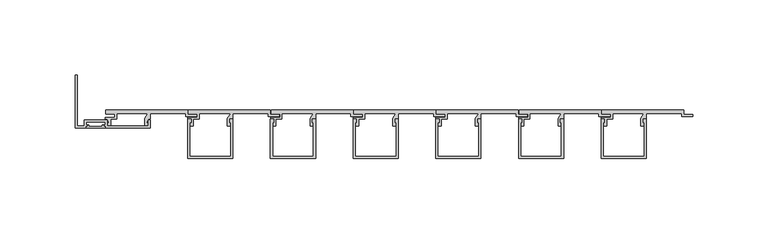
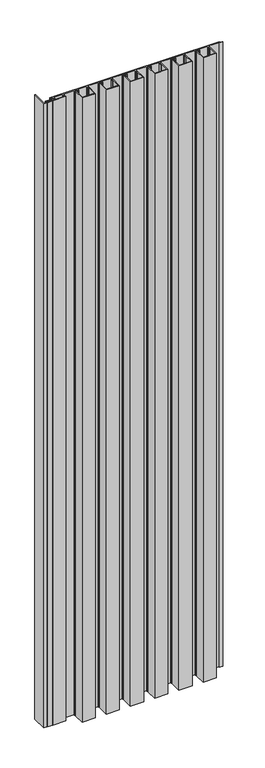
"""IFC4 building model written with IfcOpenShell, lengths in millimetres: proxy geometry, A_GEN_LINE_Small Base_Standard Cap_LTrim : A_GEN_LINE_Small Base_Standard Cap_LTrim."""

from ifc_helpers import new_model, si_unit, origin, origin_with_axes, place, context, project, spatial, polyline, outline, extrude, source, transform, mapped, element, save


def generic_models_d0506a42(model_context):
    return source(origin(), model_context, "Body", "SweptSolid", [
        extrude(outline(polyline([(-13.0106499, -11.8818695), (-13.0106499, -10.9050009), (-12.1106499, -10.9050009), (-12.1106499, -10.0050009), (-11.2354943, -10.0050009), (-11.2354943, -10.9050009), (-2.1892046, -10.9050009), (-2.1892046, -10.0050009), (-1.314049, -10.0050009), (-1.314049, -10.9050009), (-0.414049, -10.9050009), (-0.414049, -11.8818695), (-13.0106499, -11.8818695)])), origin_with_axes(), (0.0, 0.0, 1.0), 1500.0),
        extrude(outline(polyline([(-0.414049, -10.9050009), (-1.314049, -10.9050009), (-1.314049, -10.0050009), (-0.414049, -10.0050009), (-0.414049, -7.8818695), (-13.0306499, -7.8818695), (-13.0306499, -10.0050009), (-12.1306499, -10.0050009), (-12.1306499, -10.9050009), (-13.0306499, -10.9050009), (-13.0306499, -11.8818695), (-20.3575953, -11.8818695), (-20.3575953, 23.3746551), (-18.9575953, 23.3746551), (-18.9575953, -10.4818695), (-14.4306499, -10.4818695), (-14.4306499, -6.4818695), (0.985951, -6.4818695), (0.985951, -10.4818695), (28.1839928, -10.4818695), (28.1839928, -6.4818695), (29.5839928, -6.4818695), (29.5839928, -11.8818695), (-0.414049, -11.8818695), (-0.414049, -10.9050009)])), origin_with_axes(), (0.0, 0.0, 1.0), 1500.0),
        extrude(outline(polyline([(329.5935072, -32.2007192), (329.5935072, -6.1), (331.7425142, -6.1), (331.7425142, -8.3419727), (330.9935072, -8.5826662), (330.9935072, -30.8007192), (358.1935072, -30.8007192), (358.1935072, -8.5826662), (357.4445002, -8.3419727), (357.4445002, -6.1), (359.5935072, -6.1), (359.5935072, -32.2007192), (329.5935072, -32.2007192)])), origin_with_axes(), (0.0, 0.0, 1.0), 1500.0),
        extrude(outline(polyline([(274.5919, -32.2007192), (274.5919, -6.1), (276.740907, -6.1), (276.740907, -8.3419727), (275.9919, -8.5826662), (275.9919, -30.8007192), (303.1919, -30.8007192), (303.1919, -8.5826662), (302.4428931, -8.3419727), (302.4428931, -6.1), (304.5919, -6.1), (304.5919, -32.2007192), (274.5919, -32.2007192)])), origin_with_axes(), (0.0, 0.0, 1.0), 1500.0),
        extrude(outline(polyline([(219.5902928, -32.2007192), (219.5902928, -6.1), (221.7392998, -6.1), (221.7392998, -8.3419727), (220.9902928, -8.5826662), (220.9902928, -30.8007192), (248.1902928, -30.8007192), (248.1902928, -8.5826662), (247.4412859, -8.3419727), (247.4412859, -6.1), (249.5902928, -6.1), (249.5902928, -32.2007192), (219.5902928, -32.2007192)])), origin_with_axes(), (0.0, 0.0, 1.0), 1500.0),
        extrude(outline(polyline([(164.5886856, -32.2007192), (164.5886856, -6.1), (166.7376926, -6.1), (166.7376926, -8.3419727), (165.9886856, -8.5826662), (165.9886856, -30.8007192), (193.1886856, -30.8007192), (193.1886856, -8.5826662), (192.4396787, -8.3419727), (192.4396787, -6.1), (194.5886856, -6.1), (194.5886856, -32.2007192), (164.5886856, -32.2007192)])), origin_with_axes(), (0.0, 0.0, 1.0), 1500.0),
        extrude(outline(polyline([(109.5870785, -32.2007192), (109.5870785, -6.1), (111.7360854, -6.1), (111.7360854, -8.3419727), (110.9870785, -8.5826662), (110.9870785, -30.8007192), (138.1870785, -30.8007192), (138.1870785, -8.5826662), (137.4380715, -8.3419727), (137.4380715, -6.1), (139.5870785, -6.1), (139.5870785, -32.2007192), (109.5870785, -32.2007192)])), origin_with_axes(), (0.0, 0.0, 1.0), 1500.0),
        extrude(outline(polyline([(54.5854713, -32.2007192), (54.5854713, -6.1), (56.7344782, -6.1), (56.7344782, -8.3419727), (55.9854713, -8.5826662), (55.9854713, -30.8007192), (83.1854713, -30.8007192), (83.1854713, -8.5826662), (82.4364643, -8.3419727), (82.4364643, -6.1), (84.5854713, -6.1), (84.5854713, -32.2007192), (54.5854713, -32.2007192)])), origin_with_axes(), (0.0, 0.0, 1.0), 1500.0),
        extrude(outline(polyline([(330.0, 0.0), (384.5728944, 0.0), (384.5728944, -2.85), (390.5728944, -2.85), (390.5728944, -4.2), (383.0545393, -4.2), (383.0545393, -2.4), (359.5849719, -2.4), (359.5849719, -6.1021884), (358.4699984, -6.1021884), (356.8814326, -8.4994005), (358.1433665, -8.4994005), (358.1433665, -10.4818695), (355.9408405, -10.4818695), (355.9408405, -5.6343123), (358.0399616, -2.4), (337.2195527, -2.4), (337.2195527, -6.1), (333.2291033, -6.1), (333.2291033, -10.4818695), (331.0265772, -10.4818695), (331.0265772, -8.4994005), (332.2885111, -8.4994005), (330.6999453, -6.1021884), (329.6137598, -6.1021884), (329.6137598, -4.9), (336.0195527, -4.9), (336.0195527, -2.7), (330.0, -2.7), (330.0, 0.0)])), origin_with_axes(), (0.0, 0.0, 1.0), 1500.0),
        extrude(outline(polyline([(275.0, 0.0), (329.5728944, 0.0), (329.5728944, -2.85), (335.5728944, -2.85), (335.5728944, -4.2), (328.0545393, -4.2), (328.0545393, -2.4), (304.5849719, -2.4), (304.5849719, -6.1021884), (303.4699984, -6.1021884), (301.8814326, -8.4994005), (303.1433665, -8.4994005), (303.1433665, -10.4818695), (300.9408405, -10.4818695), (300.9408405, -5.6343123), (303.0399616, -2.4), (282.2195527, -2.4), (282.2195527, -6.1), (278.2291033, -6.1), (278.2291033, -10.4818695), (276.0265772, -10.4818695), (276.0265772, -8.4994005), (277.2885111, -8.4994005), (275.6999453, -6.1021884), (274.6137598, -6.1021884), (274.6137598, -4.9), (281.0195527, -4.9), (281.0195527, -2.7), (275.0, -2.7), (275.0, 0.0)])), origin_with_axes(), (0.0, 0.0, 1.0), 1500.0),
        extrude(outline(polyline([(220.0, 0.0), (274.5728944, 0.0), (274.5728944, -2.85), (280.5728944, -2.85), (280.5728944, -4.2), (273.0545393, -4.2), (273.0545393, -2.4), (249.5849719, -2.4), (249.5849719, -6.1021884), (248.4699984, -6.1021884), (246.8814326, -8.4994005), (248.1433665, -8.4994005), (248.1433665, -10.4818695), (245.9408405, -10.4818695), (245.9408405, -5.6343123), (248.0399616, -2.4), (227.2195527, -2.4), (227.2195527, -6.1), (223.2291033, -6.1), (223.2291033, -10.4818695), (221.0265772, -10.4818695), (221.0265772, -8.4994005), (222.2885111, -8.4994005), (220.6999453, -6.1021884), (219.6137598, -6.1021884), (219.6137598, -4.9), (226.0195527, -4.9), (226.0195527, -2.7), (220.0, -2.7), (220.0, 0.0)])), origin_with_axes(), (0.0, 0.0, 1.0), 1500.0),
        extrude(outline(polyline([(165.0, 0.0), (219.5728944, 0.0), (219.5728944, -2.85), (225.5728944, -2.85), (225.5728944, -4.2), (218.0545393, -4.2), (218.0545393, -2.4), (194.5849719, -2.4), (194.5849719, -6.1021884), (193.4699984, -6.1021884), (191.8814326, -8.4994005), (193.1433665, -8.4994005), (193.1433665, -10.4818695), (190.9408405, -10.4818695), (190.9408405, -5.6343123), (193.0399616, -2.4), (172.2195527, -2.4), (172.2195527, -6.1), (168.2291033, -6.1), (168.2291033, -10.4818695), (166.0265772, -10.4818695), (166.0265772, -8.4994005), (167.2885111, -8.4994005), (165.6999453, -6.1021884), (164.6137598, -6.1021884), (164.6137598, -4.9), (171.0195527, -4.9), (171.0195527, -2.7), (165.0, -2.7), (165.0, 0.0)])), origin_with_axes(), (0.0, 0.0, 1.0), 1500.0),
        extrude(outline(polyline([(110.0, 0.0), (164.5728944, 0.0), (164.5728944, -2.85), (170.5728944, -2.85), (170.5728944, -4.2), (163.0545393, -4.2), (163.0545393, -2.4), (139.5849719, -2.4), (139.5849719, -6.1021884), (138.4699984, -6.1021884), (136.8814326, -8.4994005), (138.1433665, -8.4994005), (138.1433665, -10.4818695), (135.9408405, -10.4818695), (135.9408405, -5.6343123), (138.0399616, -2.4), (117.2195527, -2.4), (117.2195527, -6.1), (113.2291033, -6.1), (113.2291033, -10.4818695), (111.0265772, -10.4818695), (111.0265772, -8.4994005), (112.2885111, -8.4994005), (110.6999453, -6.1021884), (109.6137598, -6.1021884), (109.6137598, -4.9), (116.0195527, -4.9), (116.0195527, -2.7), (110.0, -2.7), (110.0, 0.0)])), origin_with_axes(), (0.0, 0.0, 1.0), 1500.0),
        extrude(outline(polyline([(55.0, 0.0), (109.5728944, 0.0), (109.5728944, -2.85), (115.5728944, -2.85), (115.5728944, -4.2), (108.0545393, -4.2), (108.0545393, -2.4), (84.5849719, -2.4), (84.5849719, -6.1021884), (83.4699984, -6.1021884), (81.8814326, -8.4994005), (83.1433665, -8.4994005), (83.1433665, -10.4818695), (80.9408405, -10.4818695), (80.9408405, -5.6343123), (83.0399616, -2.4), (62.2195527, -2.4), (62.2195527, -6.1), (58.2291033, -6.1), (58.2291033, -10.4818695), (56.0265772, -10.4818695), (56.0265772, -8.4994005), (57.2885111, -8.4994005), (55.6999453, -6.1021884), (54.6137598, -6.1021884), (54.6137598, -4.9), (61.0195527, -4.9), (61.0195527, -2.7), (55.0, -2.7), (55.0, 0.0)])), origin_with_axes(), (0.0, 0.0, 1.0), 1500.0),
        extrude(outline(polyline([(0.0, 0.0), (54.5728944, 0.0), (54.5728944, -2.85), (60.5728944, -2.85), (60.5728944, -4.2), (53.0545393, -4.2), (53.0545393, -2.4), (29.5849719, -2.4), (29.5849719, -6.1021884), (28.4699984, -6.1021884), (26.8814326, -8.4994005), (28.1433665, -8.4994005), (28.1433665, -10.4818695), (25.9408405, -10.4818695), (25.9408405, -5.6343123), (28.0399616, -2.4), (7.2195527, -2.4), (7.2195527, -6.1), (3.2291033, -6.1), (3.2291033, -10.4818695), (1.0265772, -10.4818695), (1.0265772, -8.4994005), (2.2885111, -8.4994005), (0.6999453, -6.1021884), (-0.3862402, -6.1021884), (-0.3862402, -4.9), (6.0195527, -4.9), (6.0195527, -2.7), (0.0, -2.7), (0.0, 0.0)])), origin_with_axes(), (0.0, 0.0, 1.0), 1500.0),
    ])


if __name__ == "__main__":
    model = new_model("IFC4")
    model_context = context("Model", 3, world=origin())
    ifc_project = project(units=[si_unit("LENGTHUNIT", "METRE", prefix="MILLI")], contexts=[model_context])
    site = spatial("IfcSite", under=ifc_project)
    building = spatial("IfcBuilding", under=site)
    placement = place(None, origin())
    generic_models_shape = generic_models_d0506a42(model_context)
    element("IfcBuildingElementProxy", 1, Name="A_GEN_LINE_Small Base_Standard Cap_LTrim : A_GEN_LINE_Small Base_Standard Cap_LTrim", ObjectType="A_GEN_LINE_Small Base_Standard Cap_LTrim : A_GEN_LINE_Small Base_Standard Cap_LTrim", at=placement, inside=building, context=model_context, shape_type="MappedRepresentation", body=[
        mapped(generic_models_shape, transform((0.0, 0.0, 0.0), x_axis=(1.0, 0.0, 0.0), y_axis=(0.0, 1.0, 0.0), z_axis=(0.0, 0.0, 1.0))),
    ])
    save(model, "model.ifc")
